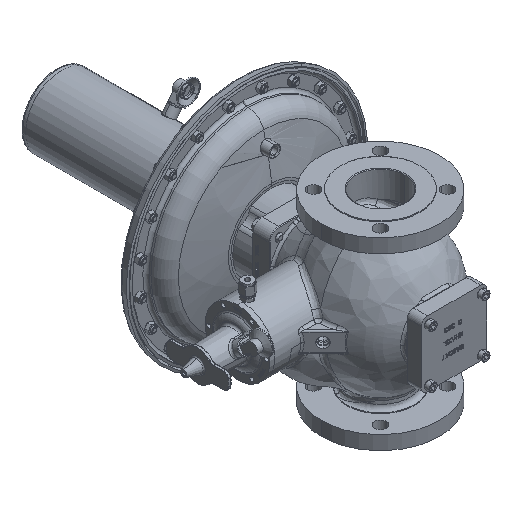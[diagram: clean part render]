
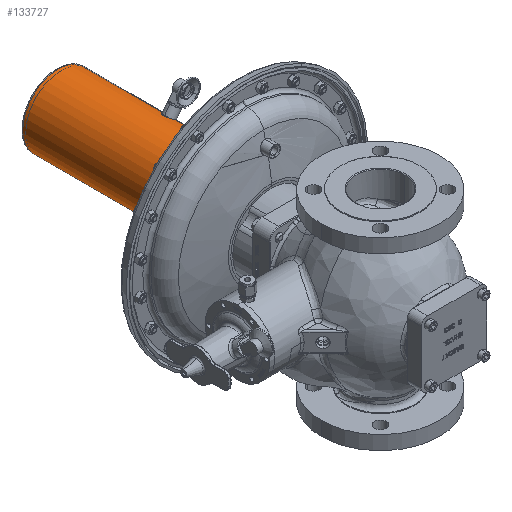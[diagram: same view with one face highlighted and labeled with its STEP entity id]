
A CAD part, isometric view. The second image highlights one B-rep face of the part: STEP entity #133727.
In plain terms, the highlighted cylindrical face has radius 57.15 mm (diameter 114.3 mm), a partial arc.
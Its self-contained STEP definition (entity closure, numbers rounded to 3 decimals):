
#129990=CARTESIAN_POINT('',(0.,512.5,0.));
#129991=DIRECTION('',(0.,1.,0.));
#129992=DIRECTION('',(-0.454,0.,-0.891));
#129993=AXIS2_PLACEMENT_3D('',#129990,#129991,#129992);
#129995=DIRECTION('',(0.,1.,0.));
#129996=VECTOR('',#129995,238.1);
#129997=CARTESIAN_POINT('',(-33.592,274.4,-46.235));
#129998=LINE('',#129997,#129996);
#129999=DIRECTION('',(-0.006,1.,-0.011));
#130000=VECTOR('',#129999,4.);
#130001=CARTESIAN_POINT('',(-25.946,512.5,-50.921));
#130002=LINE('',#130001,#130000);
#130003=CARTESIAN_POINT('',(0.,516.5,0.));
#130004=DIRECTION('',(0.,1.,0.));
#130005=DIRECTION('',(-0.454,0.,-0.891));
#130006=AXIS2_PLACEMENT_3D('',#130003,#130004,#130005);
#130008=CARTESIAN_POINT('',(0.,516.5,0.));
#130009=DIRECTION('',(0.,1.,0.));
#130010=DIRECTION('',(0.45,0.,0.893));
#130011=AXIS2_PLACEMENT_3D('',#130008,#130009,#130010);
#130013=DIRECTION('',(-0.006,-1.,
-0.011));
#130014=VECTOR('',#130013,4.);
#130015=CARTESIAN_POINT('',(25.968,516.5,50.966));
#130016=LINE('',#130015,#130014);
#130017=CARTESIAN_POINT('',(0.,512.5,0.));
#130018=DIRECTION('',(0.,1.,0.));
#130019=DIRECTION('',(0.454,0.,0.891));
#130020=AXIS2_PLACEMENT_3D('',#130017,#130018,#130019);
#130022=DIRECTION('',(0.,-1.,0.));
#130023=VECTOR('',#130022,130.45);
#130024=CARTESIAN_POINT('',(33.592,512.5,46.235));
#130025=LINE('',#130024,#130023);
#130026=CARTESIAN_POINT('',(33.592,382.05,46.235));
#130027=CARTESIAN_POINT('',(32.788,382.05,46.82));
#130028=CARTESIAN_POINT('',(31.223,381.757,
47.895));
#130029=CARTESIAN_POINT('',(28.861,380.39,
49.348));
#130030=CARTESIAN_POINT('',(27.021,378.345,
50.369));
#130031=CARTESIAN_POINT('',(25.713,375.614,
51.042));
#130032=CARTESIAN_POINT('',(25.393,373.587,
51.199));
#130033=CARTESIAN_POINT('',(25.393,372.5,51.199));
#130035=CARTESIAN_POINT('',(25.393,372.5,51.199));
#130036=CARTESIAN_POINT('',(25.393,371.447,
51.199));
#130037=CARTESIAN_POINT('',(25.693,369.467,
51.052));
#130038=CARTESIAN_POINT('',(26.967,366.734,
50.397));
#130039=CARTESIAN_POINT('',(28.809,364.648,
49.379));
#130040=CARTESIAN_POINT('',(31.208,363.244,
47.906));
#130041=CARTESIAN_POINT('',(32.783,362.95,46.823));
#130042=CARTESIAN_POINT('',(33.592,362.95,46.235));
#130044=DIRECTION('',(0.,-1.,0.));
#130045=VECTOR('',#130044,88.55);
#130046=CARTESIAN_POINT('',(33.592,362.95,46.235));
#130047=LINE('',#130046,#130045);
#130048=CARTESIAN_POINT('',(33.592,382.05,46.235));
#130064=CARTESIAN_POINT('',(33.592,362.95,46.235));
#131327=CARTESIAN_POINT('',(0.,274.4,0.));
#131328=DIRECTION('',(0.,1.,0.));
#131329=DIRECTION('',(-0.588,0.,-0.809));
#131330=AXIS2_PLACEMENT_3D('',#131327,#131328,#131329);
#133020=VERTEX_POINT('',#130048);
#133022=VERTEX_POINT('',#130064);
#133023=CARTESIAN_POINT('',(25.393,372.5,51.199));
#133025=VERTEX_POINT('',#133023);
#133069=CARTESIAN_POINT('',(-25.991,516.5,-51.01));
#133071=VERTEX_POINT('',#133069);
#133073=CARTESIAN_POINT('',(25.991,516.5,51.01));
#133074=VERTEX_POINT('',#133073);
#133095=CARTESIAN_POINT('',(25.719,516.5,51.036));
#133096=VERTEX_POINT('',#133095);
#133269=CARTESIAN_POINT('',(33.592,274.4,46.235));
#133270=CARTESIAN_POINT('',(-33.592,274.4,-46.235));
#133271=VERTEX_POINT('',#133269);
#133272=VERTEX_POINT('',#133270);
#133287=CARTESIAN_POINT('',(-25.946,512.5,-50.921));
#133288=CARTESIAN_POINT('',(-33.592,512.5,-46.235));
#133289=VERTEX_POINT('',#133287);
#133290=VERTEX_POINT('',#133288);
#133291=CARTESIAN_POINT('',(25.946,512.5,50.921));
#133292=CARTESIAN_POINT('',(33.592,512.5,46.235));
#133293=VERTEX_POINT('',#133291);
#133294=VERTEX_POINT('',#133292);
#133705=CARTESIAN_POINT('',(0.,269.638,0.));
#133706=DIRECTION('',(0.,1.,0.));
#133707=DIRECTION('',(0.588,0.,0.809));
#133708=AXIS2_PLACEMENT_3D('',#133705,#133706,#133707);
#133709=CYLINDRICAL_SURFACE('',#133708,57.15);
#133710=ORIENTED_EDGE('',*,*,#133692,.T.);
#133711=ORIENTED_EDGE('',*,*,#133690,.F.);
#133712=ORIENTED_EDGE('',*,*,#133688,.T.);
#133713=ORIENTED_EDGE('',*,*,#133652,.T.);
#133714=ORIENTED_EDGE('',*,*,#133650,.T.);
#133715=ORIENTED_EDGE('',*,*,#133684,.T.);
#133716=ORIENTED_EDGE('',*,*,#133682,.T.);
#133717=ORIENTED_EDGE('',*,*,#133680,.T.);
#133719=ORIENTED_EDGE('',*,*,#133718,.T.);
#133721=ORIENTED_EDGE('',*,*,#133720,.T.);
#133722=ORIENTED_EDGE('',*,*,#133696,.T.);
#133724=ORIENTED_EDGE('',*,*,#133723,.F.);
#133725=EDGE_LOOP('',(#133710,#133711,#133712,#133713,#133714,#133715,#133716,
#133717,#133719,#133721,#133722,#133724));
#133726=FACE_OUTER_BOUND('',#133725,.F.);
#133727=ADVANCED_FACE('',(#133726),#133709,.T.);
#129994=CIRCLE('',#129993,57.15);
#130007=CIRCLE('',#130006,57.15);
#130012=CIRCLE('',#130011,57.15);
#130021=CIRCLE('',#130020,57.15);
#130034=B_SPLINE_CURVE_WITH_KNOTS('',3,(#130026,#130027,#130028,#130029,#130030,
#130031,#130032,#130033),.UNSPECIFIED.,.F.,.F.,(4,1,1,1,1,4),(0.,0.2,0.4,
0.6,0.8,1.),.UNSPECIFIED.);
#130043=B_SPLINE_CURVE_WITH_KNOTS('',3,(#130035,#130036,#130037,#130038,#130039,
#130040,#130041,#130042),.UNSPECIFIED.,.F.,.F.,(4,1,1,1,1,4),(0.,0.2,0.4,
0.6,0.8,1.),.UNSPECIFIED.);
#131331=CIRCLE('',#131330,57.15);
#133650=EDGE_CURVE('',#133096,#133074,#130012,.T.);
#133652=EDGE_CURVE('',#133071,#133096,#130007,.T.);
#133680=EDGE_CURVE('',#133294,#133020,#130025,.T.);
#133682=EDGE_CURVE('',#133293,#133294,#130021,.T.);
#133684=EDGE_CURVE('',#133074,#133293,#130016,.T.);
#133688=EDGE_CURVE('',#133289,#133071,#130002,.T.);
#133690=EDGE_CURVE('',#133289,#133290,#129994,.T.);
#133692=EDGE_CURVE('',#133272,#133290,#129998,.T.);
#133696=EDGE_CURVE('',#133022,#133271,#130047,.T.);
#133718=EDGE_CURVE('',#133020,#133025,#130034,.T.);
#133720=EDGE_CURVE('',#133025,#133022,#130043,.T.);
#133723=EDGE_CURVE('',#133272,#133271,#131331,.T.);
